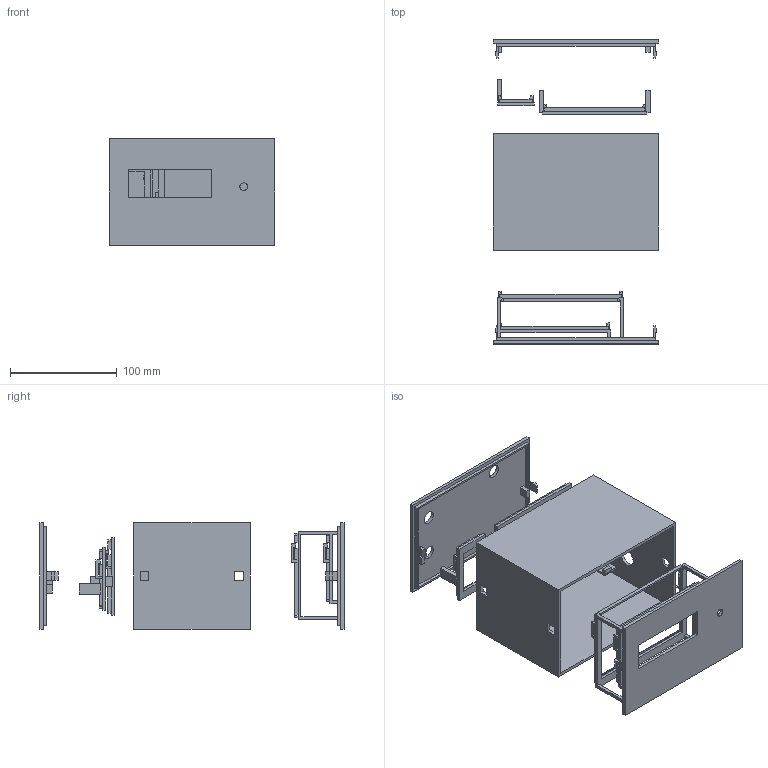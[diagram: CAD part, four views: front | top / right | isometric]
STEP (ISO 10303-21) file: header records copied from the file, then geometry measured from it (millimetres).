
FILE_DESCRIPTION(('Open CASCADE Model'),'2;1');
FILE_NAME('Open CASCADE Shape Model','2026-11-05T11:13:35',('Author'),( 'Open CASCADE'),'Open CASCADE STEP processor 7.8','Open CASCADE 7.8' ,'Unknown');
FILE_SCHEMA(('AUTOMOTIVE_DESIGN { 1 0 10303 214 1 1 1 1 }'));
Length unit declared in the file: millimetre
Products named in the file (6): Boitier_5_pieces_vue_eclatee; 05_Berceau_XL4015; 01_Coque_ouverte; 02_Facade_supports_LCD_A; 03_Berceau_B; 04_Panneau_arriere
Assembly tree (5 placements, depth 2):
  Boitier_5_pieces_vue_eclatee
    05_Berceau_XL4015
    01_Coque_ouverte
    02_Facade_supports_LCD_A
    03_Berceau_B
    04_Panneau_arriere
Bounding box: 155 x 285 x 100 mm (x, y, z)
Volume: 298820.2 mm3; surface area: 231144.7 mm2
Topology: 5 solids, 5 shells, 463 faces, 1327 edges, 882 vertices
Faces by surface type: plane 458, cylinder 5
Full cylindrical faces by diameter (mm): 7.2 x1, 12.4 x1, 12.5 x2, 16 x1
Entity records: 32317 total; most frequent: CARTESIAN_POINT 5332, DIRECTION 4929, LINE 3961, VECTOR 3961, ORIENTED_EDGE 2654, PCURVE 2654, DEFINITIONAL_REPRESENTATION 2654, EDGE_CURVE 1327
